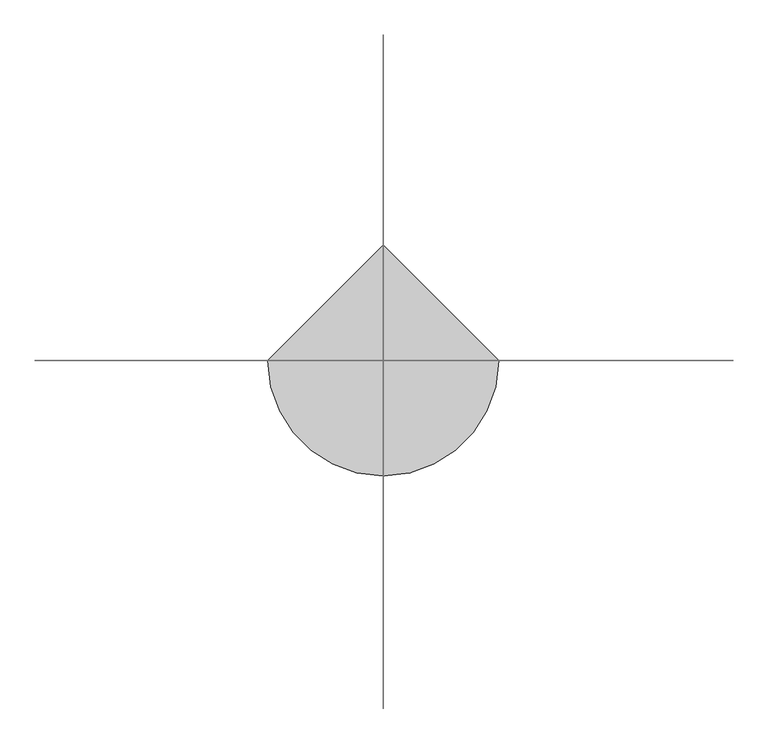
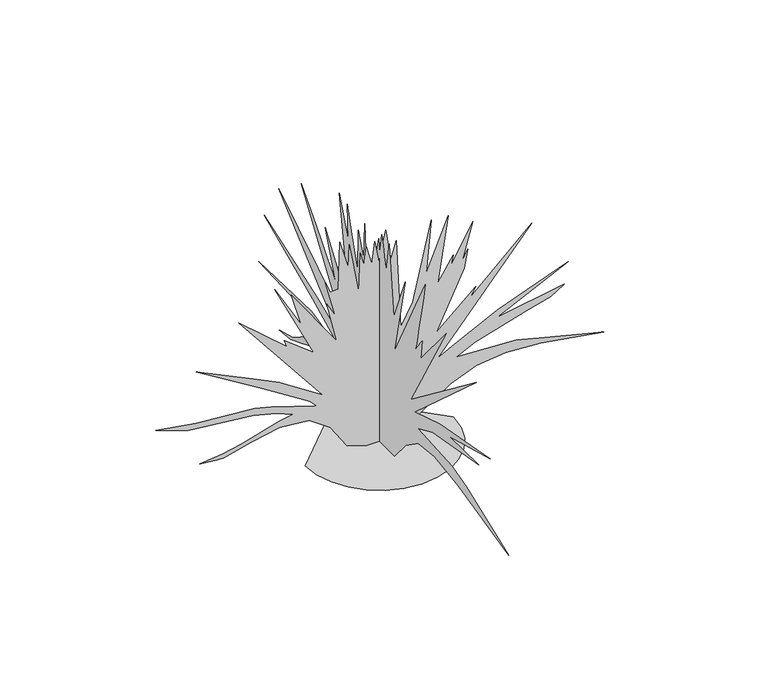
"""IFC4 building model written with IfcOpenShell, lengths in millimetres: geographic element geometry, Vegetacion PAEMFE : DIETES BICOLOR."""

from ifc_helpers import new_model, si_unit, origin, place, context, project, spatial, triangles, source, transform, mapped, element, save


def geographic_element_e3a35ce8(model_context):
    return source(origin(), model_context, "Body", "Tessellation", [
        triangles([(-659.2683346, 0.0, 4.13e-05), (-641.8393839, -151.0601199, 4.13e-05), (-592.2015707, -289.785782, 4.13e-05), (-514.3304154, -412.2003121, 4.13e-05), (-412.2003121, -514.3304154, 4.13e-05), (-289.785782, -592.2015707, 4.13e-05), (-151.0601199, -641.8393839, 4.13e-05), (2.88e-05, -659.2683346, 4.13e-05), (151.0601199, -641.8393839, 4.13e-05), (289.785782, -592.2015707, 4.13e-05), (412.2003121, -514.3304154, 4.13e-05), (514.3304154, -412.2003121, 4.13e-05), (592.2015707, -289.785782, 4.13e-05), (641.8393839, -151.0601199, 4.13e-05), (659.2683346, 5.76e-05, 4.13e-05), (-8.65e-05, 659.2683346, 4.13e-05), (-109.0982009, 4.8e-06, 1.11e-05), (-286.2024433, 9.1e-06, 57.4882697), (-435.96703, 2.1e-06, 284.7613431), (-625.7371691, 2.4e-06, 418.4859023), (-885.0595671, 1.23e-05, 442.4336775), (-1136.2009237, 2.64e-05, 390.1103087), (-1385.7232658, 4.1e-05, 328.0358274), (-1441.912278, 4.33e-05, 330.2869254), (-1598.1123367, 4.92e-05, 346.4458228), (-1392.4455299, 3.89e-05, 367.9369529), (-1235.0788273, 3.01e-05, 401.5303239), (-888.4551447, 8.9e-06, 502.4381907), (-768.6384029, 2.4e-06, 524.1892977), (-911.4718357, 5.1e-06, 582.1904812), (-1123.2231548, 1.11e-05, 637.7415962), (-1702.9014347, 3.27e-05, 700.2483187), (-1991.3015636, 3.94e-05, 798.8839405), (-1635.8123611, 2.74e-05, 739.6361761), (-1107.9675453, 6.9e-06, 696.5472364), (-963.9429789, 2.7e-06, 660.8949795), (-558.5770969, -7.1e-06, 529.5759965), (-614.4949047, -8.4e-06, 591.8826948), (-1042.6474771, -5.8e-06, 862.0306675), (-1630.4235912, -1.7e-06, 1224.3897995), (-1121.356481, -9.4e-06, 980.0885777), (-892.5207396, -1.28e-05, 868.9051752), (-504.7159587, -1.46e-05, 615.7549295), (-1253.3899189, -3.78e-05, 1552.9456169), (-822.4995775, -3.45e-05, 1181.3009325), (-844.0451374, -3.74e-05, 1245.9342693), (-585.5082293, -3.65e-05, 1041.2619513), (-930.2241068, -6.41e-05, 1757.6236759), (-693.2316685, -4.97e-05, 1342.8899792), (-784.7973003, -6.44e-05, 1655.290242), (-380.8336221, -4.77e-05, 1078.9653185), (-467.0125915, -6.64e-05, 1456.0010983), (-391.605857, -6.16e-05, 1321.3455093), (-483.1714889, -7.82e-05, 1666.0568813), (-436.2103655, -7.4e-05, 1561.3679226), (-364.2747491, -7.71e-05, 1561.4568707), (-353.9024898, -0.0001037, 2000.001614), (-277.4579916, -9.14e-05, 1736.5347015), (-267.7235385, -0.0001043, 1946.1348438), (-181.5456955, -7.95e-05, 1466.7678829), (-170.7723524, -0.0001018, 1833.0347706), (-138.4556658, -9.58e-05, 1709.145821), (-116.9112051, -0.0001067, 1876.1237103), (-68.435612, -9.79e-05, 1692.9902664), (-41.5048113, -0.0001113, 1897.6681801), (-3.8015031, -0.0001007, 1692.9902664), (55.4463794, -0.00012, 1973.0682289), (103.9219725, -0.0001045, 1676.8347118), (152.3979017, -0.0001162, 1838.41264), (190.1012598, -6.84e-05, 1008.9452465), (297.8235726, -8.5e-05, 1208.2343176), (461.4970488, -0.0001349, 1924.5570911), (416.3203368, -0.000104, 1439.8344978), (614.5360359, -0.0001408, 1911.434927), (518.6570772, -0.0001008, 1310.5676788), (658.6983112, -0.0001198, 1526.023423), (637.1538414, -0.000113, 1429.0678585), (831.05625, -0.0001424, 1779.1681458), (734.1050457, -0.0001176, 1434.4567738), (787.9662203, -0.000126, 1536.7900623), (758.8283913, -0.0001148, 1369.2454926), (507.8848423, -7.27e-05, 847.3595427), (857.9873823, -0.0001066, 1159.7564627), (804.1251177, -9.88e-05, 1068.1930836), (1358.9010658, -0.0001536, 1579.879002), (518.6570772, -5.87e-05, 604.9816046), (693.2405342, -7.15e-05, 691.5027769), (1051.8886282, -9.78e-05, 868.9051752), (1682.067968, -0.0001394, 1105.8964508), (1046.5030558, -9.34e-05, 798.8839405), (1648.2347134, -0.0001259, 902.7362497), (1527.4457199, -0.0001163, 830.6295319), (1314.1343216, -0.0001034, 770.2083652), (855.0240458, -7.55e-05, 639.0327238), (685.6294436, -6.31e-05, 556.5060024), (1218.8565617, -8.48e-05, 529.5759965), (1471.5456436, -9.2e-05, 464.131481), (1999.8571461, -0.0001071, 330.2869254), (1439.523325, -8.8e-05, 420.8425535), (1126.1231232, -7.56e-05, 442.2692253), (863.7684975, -6.23e-05, 411.6614279), (633.2182531, -4.68e-05, 320.9469069), (378.4191982, -2.54e-05, 149.311235), (144.6145559, -6.3e-06, 0.0), (3.9e-06, 87.8548482, 3.98e-05), (9.3e-06, 209.0990646, 4.34e-05), (1.6e-05, 299.2513561, 87.8517325), (2.72e-05, 436.1114616, 258.6157551), (3.65e-05, 580.5682328, 353.0958529), (4.51e-05, 762.3572456, 371.1580862), (5.03e-05, 912.4407446, 318.7635736), (5.92e-05, 1190.9120464, 200.510163), (6.5e-05, 1364.7566677, 132.4778875), (7.24e-05, 1545.6123436, 109.4540839), (6.48e-05, 1335.8677334, 169.9934755), (5.86e-05, 1092.5264093, 327.319156), (5.18e-05, 874.262915, 427.2114598), (4.41e-05, 705.3716978, 421.8525573), (5.13e-05, 824.7040215, 482.7926239), (6.6e-05, 1120.3675879, 533.7859866), (0.0001001, 1862.2792065, 566.7148996), (6.43e-05, 1044.6997501, 588.8237972), (4.77e-05, 721.5450565, 519.4392969), (3.59e-05, 522.2415241, 421.8525573), (4.79e-05, 699.6750252, 558.4737966), (6.73e-05, 1022.8330616, 722.9738937), (0.0001108, 1777.2236423, 1052.0352762), (6.58e-05, 953.1352083, 777.3395433), (4.82e-05, 646.1227707, 648.0716343), (0.0001122, 1551.0012589, 1439.8344978), (5.45e-05, 639.5594358, 868.5684952), (0.0001043, 1200.9009716, 1698.3791817), (9.55e-05, 1088.2842264, 1572.6012486), (8.7e-05, 979.839683, 1450.7123222), (7.92e-05, 879.7351828, 1336.6121647), (7.22e-05, 792.1406021, 1234.1899281), (6.64e-05, 721.2272707, 1147.3231373), (6.22e-05, 671.1649921, 1079.9264517), (5.98e-05, 646.1227707, 1035.8763788), (8.23e-05, 834.6395342, 1509.8568226), (6.61e-05, 651.4149622, 1241.2342655), (6.46e-05, 633.96828, 1217.5898512), (6.3e-05, 612.8615742, 1193.0898205), (6.11e-05, 588.7038191, 1167.878714), (5.92e-05, 562.1048976, 1142.1120455), (5.71e-05, 533.6748742, 1115.9119732), (5.5e-05, 504.0248308, 1089.4308861), (5.29e-05, 473.765922, 1062.8075111), (8.61e-05, 613.8060659, 1967.6793137), (6.93e-05, 479.1514944, 1606.8123871), (7.98e-05, 495.3103918, 1935.3682045), (7.05e-05, 430.6770186, 1719.9236515), (5.65e-05, 328.3391519, 1402.1344734), (6.79e-05, 322.9524894, 1795.3237003), (5.76e-05, 242.1602006, 1569.1123627), (6.71e-05, 226.0012851, 1913.8237347), (5.93e-05, 206.7346014, 1680.5902966), (4.8e-05, 118.2778731, 1434.4567738), (5.71e-05, 5.1682375, 1908.4348194), (5.26e-05, -5.6042489, 1773.7792305), (5.71e-05, -37.4018072, 1970.5015251), (5.45e-05, -52.3988183, 1907.8903759), (5.21e-05, -66.6846106, 1847.1903019), (4.98e-05, -79.5481786, 1790.3014778), (4.78e-05, -90.2781832, 1739.1458794), (4.61e-05, -98.1635213, 1695.6235359), (4.49e-05, -102.4929718, 1661.6458134), (4.43e-05, -102.5554135, 1639.1234962), (5.14e-05, -151.0312336, 1951.5237591), (2.9e-05, -221.0512965, 1305.1899548), (3.4e-05, -404.1814339, 1746.8568913), (1.91e-05, -231.8235133, 987.4007767), (2.51e-05, -711.1927814, 1908.4348194), (2.22e-05, -682.2050159, 1767.2791912), (1.94e-05, -654.0505571, 1631.2680164), (1.68e-05, -627.5649645, 1505.5345573), (1.46e-05, -603.581581, 1395.2232674), (1.28e-05, -582.9360389, 1305.4788906), (1.17e-05, -566.4626621, 1241.4343987), (1.12e-05, -554.9937764, 1208.2343176), (1.11e-05, -551.2204239, 1199.5342672), (1.1e-05, -556.2915533, 1204.0787573), (1.09e-05, -568.7315643, 1219.667704), (1.08e-05, -587.0693622, 1244.0899052), (1.07e-05, -609.8282564, 1275.1343765), (1.06e-05, -635.5360622, 1310.601107), (1.06e-05, -662.7171793, 1348.2788944), (6.3e-06, -635.7872097, 1165.1453779), (2.8e-06, -1034.3641891, 1644.5124115), (-1.1e-06, -484.9737044, 691.160574), (-2.32e-05, -1492.190023, 1461.3789677), (-6.3e-06, -544.2215415, 604.9826946), (-1.99e-05, -932.0263224, 728.8639412), (-5.05e-05, -1711.6790966, 872.4395525), (-2.72e-05, -1077.4530561, 701.9328089), (-4.75e-05, -1537.4679279, 712.7061338), (-1.96e-05, -828.200683, 583.9949132), (-1.22e-05, -592.6971437, 481.1003943), (-3.7e-05, -1125.9342539, 448.7825632), (-4.84e-05, -1341.3788795, 389.5347625), (-8.5e-05, -1993.1015991, 136.3845531), (-4.49e-05, -1216.1232256, 318.7635736), (-2.71e-05, -853.6062544, 371.8647291), (-1.66e-05, -601.9671447, 345.4658318), (-1.2e-05, -412.0003243, 213.765731), (-1.03e-05, -230.1057402, 3.03e-05), (-3.7e-06, -83.6637341, 3.47e-05)], [[15, 16, 1], [14, 15, 1], [14, 1, 2], [13, 14, 2], [13, 2, 3], [13, 3, 4], [12, 13, 4], [11, 12, 4], [11, 4, 5], [11, 5, 6], [11, 6, 7], [11, 7, 8], [11, 8, 9], [11, 9, 10], [47, 48, 49], [97, 98, 99], [88, 89, 90], [39, 40, 41], [84, 85, 86], [71, 72, 73], [53, 54, 55], [32, 33, 34], [43, 44, 45], [24, 25, 26], [58, 59, 60], [77, 78, 79], [73, 74, 75], [60, 61, 62], [51, 52, 53], [56, 57, 58], [82, 83, 84], [79, 80, 81], [64, 65, 66], [49, 50, 51], [68, 69, 70], [75, 76, 77], [90, 91, 92], [90, 92, 93], [66, 67, 68], [82, 84, 86], [90, 93, 94], [62, 63, 64], [47, 49, 51], [39, 41, 42], [45, 46, 47], [43, 45, 47], [38, 39, 42], [38, 42, 43], [31, 32, 34], [31, 34, 35], [23, 24, 26], [56, 58, 60], [87, 88, 90], [87, 90, 94], [87, 94, 95], [37, 38, 43], [86, 87, 95], [71, 73, 75], [96, 97, 99], [96, 99, 100], [95, 96, 100], [95, 100, 101], [95, 101, 102], [53, 55, 56], [53, 56, 60], [22, 23, 26], [22, 26, 27], [22, 27, 28], [21, 22, 28], [60, 62, 64], [43, 47, 51], [30, 31, 35], [30, 35, 36], [30, 36, 37], [29, 30, 37], [86, 95, 102], [21, 28, 29], [20, 21, 29], [20, 29, 37], [19, 20, 37], [86, 102, 103], [66, 68, 70], [64, 66, 70], [60, 64, 70], [53, 60, 70], [51, 53, 70], [43, 51, 70], [77, 79, 81], [77, 81, 82], [75, 77, 82], [71, 75, 82], [70, 71, 82], [70, 82, 86], [43, 70, 86], [43, 86, 103], [43, 103, 104], [43, 104, 17], [43, 17, 18], [43, 18, 19], [43, 19, 37], [120, 121, 122], [193, 194, 195], [190, 191, 192], [126, 127, 128], [155, 156, 157], [131, 132, 133], [200, 201, 202], [113, 114, 115], [195, 196, 197], [129, 130, 131], [131, 133, 134], [170, 171, 172], [188, 189, 190], [131, 134, 135], [148, 149, 150], [139, 140, 141], [131, 135, 136], [150, 151, 152], [168, 169, 170], [172, 173, 174], [131, 136, 137], [158, 159, 160], [172, 174, 175], [131, 137, 138], [153, 154, 155], [131, 138, 139], [172, 175, 176], [160, 161, 162], [172, 176, 177], [186, 187, 188], [172, 177, 178], [112, 113, 115], [112, 115, 116], [111, 112, 116], [111, 116, 117], [160, 162, 163], [172, 178, 179], [172, 179, 180], [172, 180, 181], [139, 141, 142], [193, 195, 197], [185, 186, 188], [192, 193, 197], [192, 197, 198], [155, 157, 158], [150, 152, 153], [148, 150, 153], [139, 142, 143], [199, 200, 202], [119, 120, 122], [119, 122, 123], [118, 119, 123], [199, 202, 203], [198, 199, 203], [198, 203, 204], [184, 185, 188], [110, 111, 117], [110, 117, 118], [109, 110, 118], [160, 163, 164], [118, 123, 124], [109, 118, 124], [139, 143, 144], [125, 126, 128], [125, 128, 129], [183, 184, 188], [139, 144, 145], [153, 155, 158], [108, 109, 124], [139, 145, 146], [160, 164, 165], [158, 160, 165], [158, 165, 166], [158, 166, 167], [158, 167, 168], [158, 168, 170], [182, 183, 188], [124, 125, 129], [182, 188, 190], [181, 182, 190], [172, 181, 190], [139, 146, 147], [131, 139, 147], [131, 147, 148], [158, 170, 172], [153, 158, 172], [148, 153, 172], [198, 204, 205], [131, 148, 172], [129, 131, 172], [124, 129, 172], [124, 172, 190], [108, 124, 190], [107, 108, 190], [106, 107, 190], [105, 106, 190], [207, 105, 190], [206, 207, 190], [205, 206, 190], [198, 205, 190], [192, 198, 190]], closed=False),
    ])


if __name__ == "__main__":
    model = new_model("IFC4")
    model_context = context("Model", 3, world=origin())
    ifc_project = project(units=[si_unit("LENGTHUNIT", "METRE", prefix="MILLI")], contexts=[model_context])
    site = spatial("IfcSite", under=ifc_project)
    building = spatial("IfcBuilding", under=site)
    placement = place(None, origin())
    geographic_element_shape = geographic_element_e3a35ce8(model_context)
    element("IfcGeographicElement", 1, ObjectType="Vegetacion PAEMFE : DIETES BICOLOR", at=placement, inside=building, context=model_context, shape_type="MappedRepresentation", body=[
        mapped(geographic_element_shape, transform((0.0, 0.0, 0.0), x_axis=(1.0, 0.0, 0.0), y_axis=(0.0, 1.0, 0.0), z_axis=(0.0, 0.0, 1.0))),
    ])
    save(model, "model.ifc")
